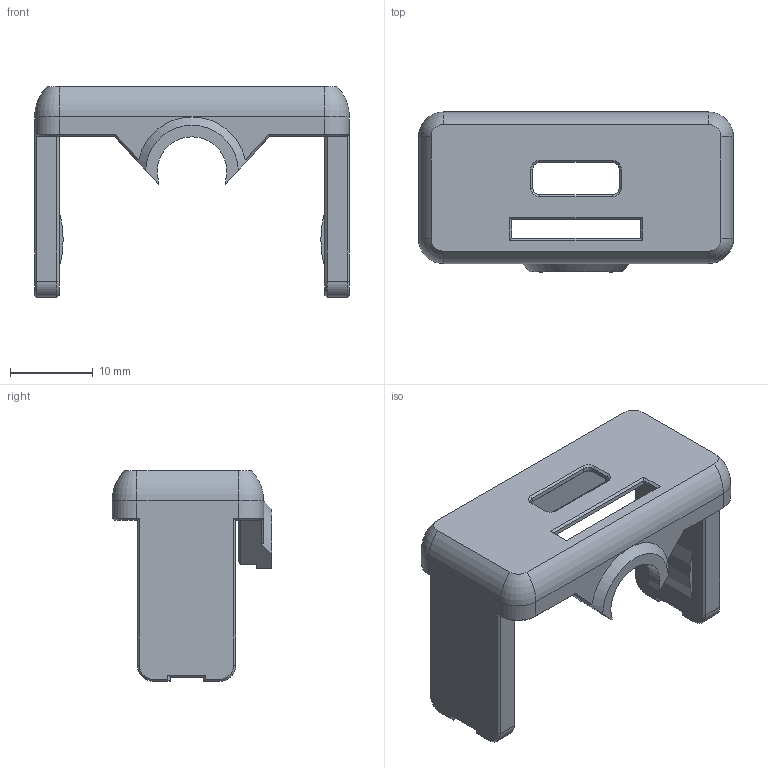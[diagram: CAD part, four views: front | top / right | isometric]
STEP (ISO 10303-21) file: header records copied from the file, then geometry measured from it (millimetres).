
FILE_DESCRIPTION(/* description */ ('STEP AP242','CAx-IF Rec.Pracs.---Representation and Presentation of Product Manufacturing Information (PMI)---4.0---2014-10-13','CAx-IF Rec.Pracs.---3D Tessellated Geometry---0.4---2014-09-14','2;1'),/* implementation_level */ '2;1');
FILE_NAME(/* name */ '66a0c96c4748fe6d1b70af7b',/* time_stamp */ '2024-07-24T09:29:17Z',/* author */ (''),/* organization */ (''),/* preprocessor_version */ 'ST-DEVELOPER v20',/* originating_system */ ' ',/* authorisation */ ' ');
FILE_SCHEMA (('AP242_MANAGED_MODEL_BASED_3D_ENGINEERING_MIM_LF { 1 0 10303 442 1 1 4 }'));
Length unit declared in the file: metre
Products named in the file (1): ESP32_Slim_Cam_Case_Top_Part
Bounding box: 38 x 19.3 x 25.42 mm (x, y, z)
Volume: 3780.1 mm3; surface area: 3451.5 mm2
Topology: 1 solids, 1 shells, 171 faces, 421 edges, 253 vertices
Faces by surface type: plane 115, cylinder 31, cone 21, torus 4
Entity records: 4962 total; most frequent: DIRECTION 858, CARTESIAN_POINT 858, ORIENTED_EDGE 842, EDGE_CURVE 421, LINE 320, VECTOR 320, AXIS2_PLACEMENT_3D 269, VERTEX_POINT 253
